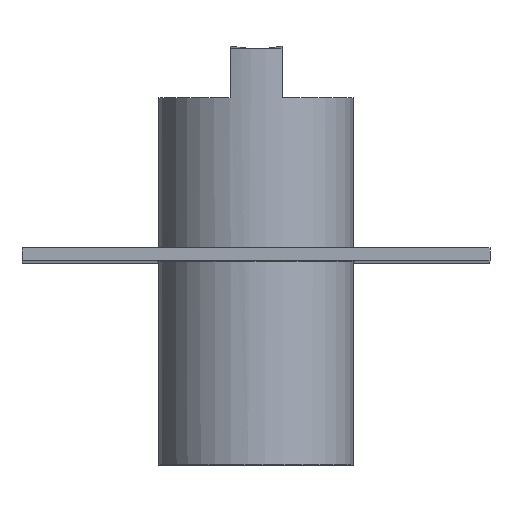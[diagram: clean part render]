
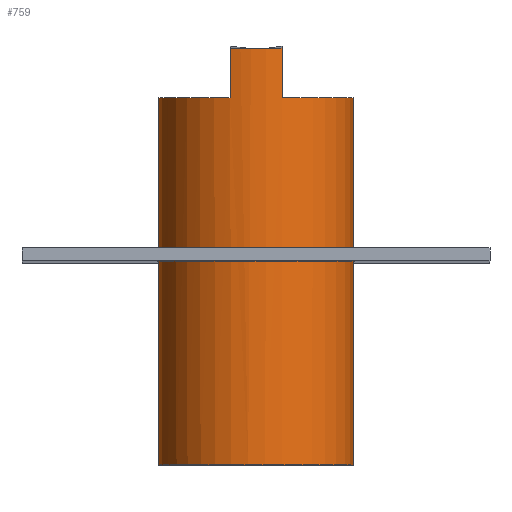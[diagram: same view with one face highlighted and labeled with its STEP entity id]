
A CAD part, top view. The second image highlights one B-rep face of the part: STEP entity #759.
In plain terms, the highlighted cylindrical face has radius 22.5 mm (diameter 45 mm), a full revolution.
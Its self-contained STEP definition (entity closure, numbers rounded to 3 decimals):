
#21=CYLINDRICAL_SURFACE('',#831,22.5);
#43=CIRCLE('',#820,22.5);
#44=CIRCLE('',#821,22.5);
#46=CIRCLE('',#825,22.5);
#48=CIRCLE('',#830,22.5);
#92=B_SPLINE_CURVE_WITH_KNOTS('',3,(#1273,#1274,#1275,#1276,#1277,#1278,
#1279,#1280,#1281,#1282),.UNSPECIFIED.,.F.,.F.,(4,2,2,2,4),(6.195,
6.358,6.782,7.206,7.369),
 .UNSPECIFIED.);
#93=B_SPLINE_CURVE_WITH_KNOTS('',3,(#1283,#1284,#1285,#1286,#1287,#1288,
#1289,#1290,#1291,#1292,#1293),.UNSPECIFIED.,.F.,.F.,(4,2,3,2,4),(12.977,
13.14,13.564,13.988,14.151),
 .UNSPECIFIED.);
#124=FACE_OUTER_BOUND('',#176,.T.);
#176=EDGE_LOOP('',(#569,#570,#571,#572,#573,#574,#575,#576,#577,#578,#579,
#580));
#224=LINE('',#1257,#271);
#225=LINE('',#1260,#272);
#227=LINE('',#1268,#274);
#228=LINE('',#1271,#275);
#229=LINE('',#1298,#276);
#271=VECTOR('',#935,10.);
#272=VECTOR('',#938,10.);
#274=VECTOR('',#946,10.);
#275=VECTOR('',#949,10.);
#276=VECTOR('',#958,22.5);
#324=VERTEX_POINT('',#1249);
#325=VERTEX_POINT('',#1250);
#326=VERTEX_POINT('',#1252);
#327=VERTEX_POINT('',#1256);
#328=VERTEX_POINT('',#1258);
#329=VERTEX_POINT('',#1262);
#330=VERTEX_POINT('',#1263);
#331=VERTEX_POINT('',#1267);
#332=VERTEX_POINT('',#1269);
#333=VERTEX_POINT('',#1295);
#406=EDGE_CURVE('',#324,#325,#43,.T.);
#407=EDGE_CURVE('',#325,#326,#44,.T.);
#409=EDGE_CURVE('',#326,#327,#224,.T.);
#411=EDGE_CURVE('',#328,#324,#225,.T.);
#412=EDGE_CURVE('',#329,#330,#46,.T.);
#414=EDGE_CURVE('',#330,#331,#227,.T.);
#416=EDGE_CURVE('',#332,#329,#228,.T.);
#417=EDGE_CURVE('',#328,#331,#92,.T.);
#418=EDGE_CURVE('',#332,#327,#93,.T.);
#419=EDGE_CURVE('',#333,#333,#48,.T.);
#420=EDGE_CURVE('',#325,#333,#229,.T.);
#569=ORIENTED_EDGE('',*,*,#411,.F.);
#570=ORIENTED_EDGE('',*,*,#417,.T.);
#571=ORIENTED_EDGE('',*,*,#414,.F.);
#572=ORIENTED_EDGE('',*,*,#412,.F.);
#573=ORIENTED_EDGE('',*,*,#416,.F.);
#574=ORIENTED_EDGE('',*,*,#418,.T.);
#575=ORIENTED_EDGE('',*,*,#409,.F.);
#576=ORIENTED_EDGE('',*,*,#407,.F.);
#577=ORIENTED_EDGE('',*,*,#420,.T.);
#578=ORIENTED_EDGE('',*,*,#419,.T.);
#579=ORIENTED_EDGE('',*,*,#420,.F.);
#580=ORIENTED_EDGE('',*,*,#406,.F.);
#759=ADVANCED_FACE('',(#124),#21,.T.);
#820=AXIS2_PLACEMENT_3D('',#1251,#928,#929);
#821=AXIS2_PLACEMENT_3D('',#1253,#930,#931);
#825=AXIS2_PLACEMENT_3D('',#1264,#941,#942);
#830=AXIS2_PLACEMENT_3D('',#1296,#954,#955);
#831=AXIS2_PLACEMENT_3D('',#1297,#956,#957);
#928=DIRECTION('center_axis',(0.,1.,0.));
#929=DIRECTION('ref_axis',(0.,0.,
1.));
#930=DIRECTION('center_axis',(0.,1.,0.));
#931=DIRECTION('ref_axis',(0.,0.,
1.));
#935=DIRECTION('',(0.,1.,0.));
#938=DIRECTION('',(0.,-1.,0.));
#941=DIRECTION('center_axis',(0.,1.,0.));
#942=DIRECTION('ref_axis',(0.,0.,
1.));
#946=DIRECTION('',(0.,1.,0.));
#949=DIRECTION('',(0.,-1.,0.));
#954=DIRECTION('center_axis',(0.,1.,0.));
#955=DIRECTION('ref_axis',(-0.964,0.,0.265));
#956=DIRECTION('center_axis',(0.,1.,0.));
#957=DIRECTION('ref_axis',(-0.964,0.,0.265));
#958=DIRECTION('',(0.,-1.,0.));
#1249=CARTESIAN_POINT('',(6.,53.2,181.685));
#1250=CARTESIAN_POINT('',(21.694,53.2,154.031));
#1251=CARTESIAN_POINT('Origin',(0.,53.2,160.));
#1252=CARTESIAN_POINT('',(6.,53.2,138.315));
#1253=CARTESIAN_POINT('Origin',(0.,53.2,160.));
#1256=CARTESIAN_POINT('',(6.,64.612,138.315));
#1257=CARTESIAN_POINT('',(6.,49.2,138.315));
#1258=CARTESIAN_POINT('',(6.,64.612,181.685));
#1260=CARTESIAN_POINT('',(6.,49.2,181.685));
#1262=CARTESIAN_POINT('',(-6.,53.2,138.315));
#1263=CARTESIAN_POINT('',(-6.,53.2,181.685));
#1264=CARTESIAN_POINT('Origin',(0.,53.2,160.));
#1267=CARTESIAN_POINT('',(-6.,64.612,181.685));
#1268=CARTESIAN_POINT('',(-6.,49.2,181.685));
#1269=CARTESIAN_POINT('',(-6.,64.612,138.315));
#1271=CARTESIAN_POINT('',(-6.,49.2,138.315));
#1273=CARTESIAN_POINT('Ctrl Pts',(6.,64.612,181.685));
#1274=CARTESIAN_POINT('Ctrl Pts',(5.445,64.603,181.839));
#1275=CARTESIAN_POINT('Ctrl Pts',(4.887,64.596,181.97));
#1276=CARTESIAN_POINT('Ctrl Pts',(2.874,64.574,182.365));
#1277=CARTESIAN_POINT('Ctrl Pts',(1.413,64.567,182.5));
#1278=CARTESIAN_POINT('Ctrl Pts',(-1.413,64.567,182.5));
#1279=CARTESIAN_POINT('Ctrl Pts',(-2.874,64.574,182.365));
#1280=CARTESIAN_POINT('Ctrl Pts',(-4.887,64.596,181.97));
#1281=CARTESIAN_POINT('Ctrl Pts',(-5.445,64.603,181.839));
#1282=CARTESIAN_POINT('Ctrl Pts',(-6.,64.612,181.685));
#1283=CARTESIAN_POINT('Ctrl Pts',(-6.,64.612,138.315));
#1284=CARTESIAN_POINT('Ctrl Pts',(-5.445,64.603,138.161));
#1285=CARTESIAN_POINT('Ctrl Pts',(-4.887,64.596,138.03));
#1286=CARTESIAN_POINT('Ctrl Pts',(-2.874,64.574,137.635));
#1287=CARTESIAN_POINT('Ctrl Pts',(-1.413,64.567,137.5));
#1288=CARTESIAN_POINT('Ctrl Pts',(0.,64.567,
137.5));
#1289=CARTESIAN_POINT('Ctrl Pts',(1.413,64.567,137.5));
#1290=CARTESIAN_POINT('Ctrl Pts',(2.874,64.574,137.635));
#1291=CARTESIAN_POINT('Ctrl Pts',(4.887,64.596,138.03));
#1292=CARTESIAN_POINT('Ctrl Pts',(5.445,64.603,138.161));
#1293=CARTESIAN_POINT('Ctrl Pts',(6.,64.612,138.315));
#1295=CARTESIAN_POINT('',(21.694,-31.5,154.031));
#1296=CARTESIAN_POINT('Origin',(0.,-31.5,160.));
#1297=CARTESIAN_POINT('Origin',(0.,-3.55,160.));
#1298=CARTESIAN_POINT('',(21.694,-3.55,154.031));
